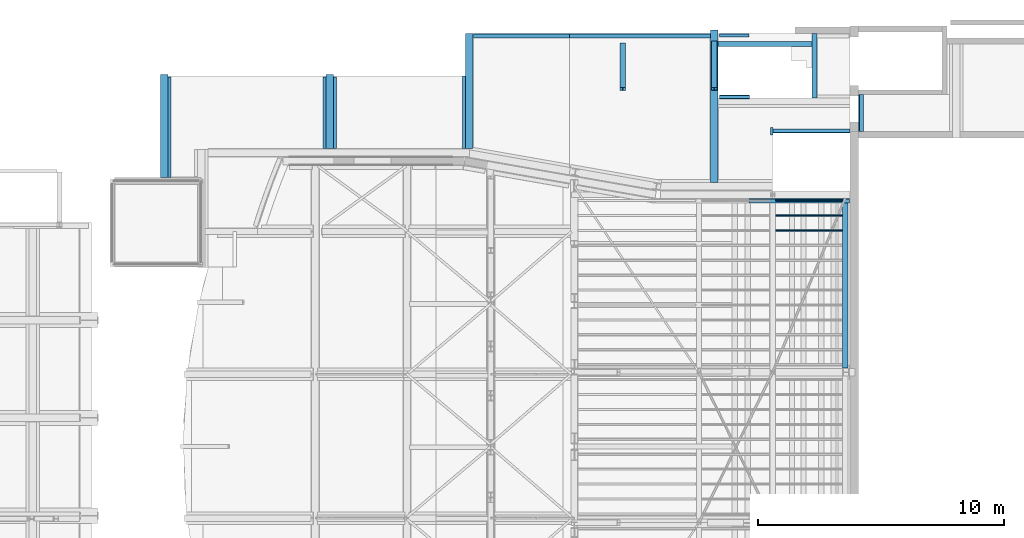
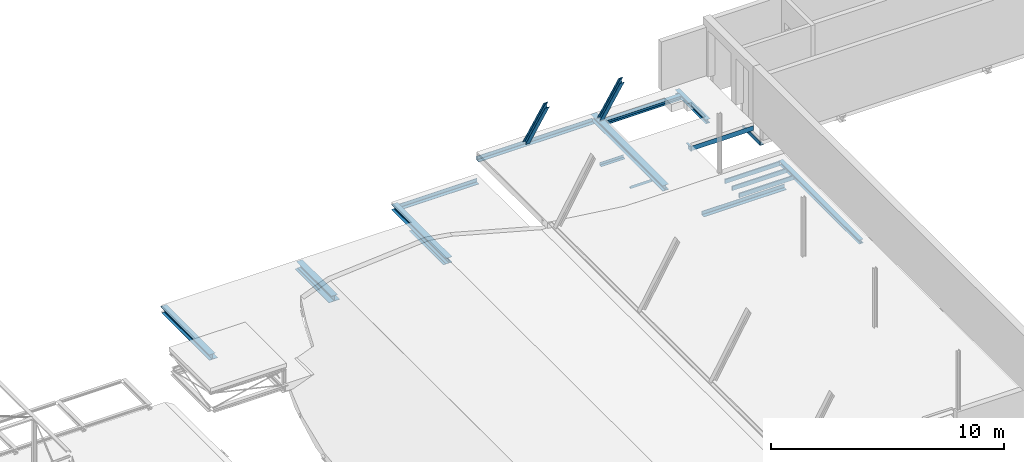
# One storey, part 33 of 50: 19 beams.
"""IFC2X3 building model written with IfcOpenShell, lengths in millimetres."""

from ifc_helpers import new_model, entity, si_unit, converted_unit, derived_unit, direction, frame, frame_2d, origin, place, context, subcontext, project, spatial, polyline, circle_curve, parameter, trimmed, segment, composite_curve, rectangle, i_section, outline, extrude, clip, halfspace, source, transform, mapped, material, material_list, type_object, type_shapes, element, save


model = new_model("IFC2X3")

# Units and contexts
model_context = context("Model", 3, precision=0.01, world=origin(), true_north=direction((6.12303176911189e-17, 1.0)))
body_context = subcontext(model_context, "Body", "Model", "MODEL_VIEW")
ifc_project = project(units=[si_unit("LENGTHUNIT", "METRE", prefix="MILLI"), si_unit("AREAUNIT", "SQUARE_METRE", prefix="MILLI"), si_unit("VOLUMEUNIT", "CUBIC_METRE"), converted_unit("PLANEANGLEUNIT", "DEGREE", entity("IfcRatioMeasure", 0.0174532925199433), si_unit("PLANEANGLEUNIT", "RADIAN"), dimensions=[0, 0, 0, 0, 0, 0, 0]), si_unit("MASSUNIT", "GRAM", prefix="KILO"), derived_unit("MASSDENSITYUNIT", [(si_unit("MASSUNIT", "GRAM", prefix="KILO"), 1), (si_unit("LENGTHUNIT", "METRE"), -3)]), derived_unit("MOMENTOFINERTIAUNIT", [(si_unit("LENGTHUNIT", "METRE"), 4)]), si_unit("TIMEUNIT", "SECOND"), si_unit("FREQUENCYUNIT", "HERTZ"), si_unit("THERMODYNAMICTEMPERATUREUNIT", "DEGREE_CELSIUS"), derived_unit("THERMALTRANSMITTANCEUNIT", [(si_unit("MASSUNIT", "GRAM", prefix="KILO"), 1), (si_unit("THERMODYNAMICTEMPERATUREUNIT", "KELVIN"), -1), (si_unit("TIMEUNIT", "SECOND"), -3)]), derived_unit("VOLUMETRICFLOWRATEUNIT", [(si_unit("LENGTHUNIT", "METRE"), 3), (si_unit("TIMEUNIT", "SECOND"), -1)]), si_unit("ELECTRICCURRENTUNIT", "AMPERE"), si_unit("ELECTRICVOLTAGEUNIT", "VOLT"), si_unit("POWERUNIT", "WATT"), si_unit("FORCEUNIT", "NEWTON", prefix="KILO"), si_unit("ILLUMINANCEUNIT", "LUX"), si_unit("LUMINOUSFLUXUNIT", "LUMEN"), si_unit("LUMINOUSINTENSITYUNIT", "CANDELA"), derived_unit("USERDEFINED", [(si_unit("MASSUNIT", "GRAM", prefix="KILO"), -1), (si_unit("LENGTHUNIT", "METRE"), -2), (si_unit("TIMEUNIT", "SECOND"), 3), (si_unit("LUMINOUSFLUXUNIT", "LUMEN"), 1)]), derived_unit("LINEARVELOCITYUNIT", [(si_unit("LENGTHUNIT", "METRE"), 1), (si_unit("TIMEUNIT", "SECOND"), -1)]), si_unit("PRESSUREUNIT", "PASCAL"), derived_unit("USERDEFINED", [(si_unit("LENGTHUNIT", "METRE"), -2), (si_unit("MASSUNIT", "GRAM", prefix="KILO"), 1), (si_unit("TIMEUNIT", "SECOND"), -2)]), derived_unit("LINEARFORCEUNIT", [(si_unit("MASSUNIT", "GRAM", prefix="KILO"), 1), (si_unit("LENGTHUNIT", "METRE"), 1), (si_unit("TIMEUNIT", "SECOND"), -2), (si_unit("LENGTHUNIT", "METRE"), -1)]), derived_unit("PLANARFORCEUNIT", [(si_unit("MASSUNIT", "GRAM", prefix="KILO"), 1), (si_unit("LENGTHUNIT", "METRE"), 1), (si_unit("TIMEUNIT", "SECOND"), -2), (si_unit("LENGTHUNIT", "METRE"), -2)])], contexts=[model_context])

# Site, building, storey
site_placement = place(None, origin())
site = spatial("IfcSite", under=ifc_project, at=site_placement, Name="Theater aan de Parade", CompositionType="ELEMENT")
building_placement = place(site_placement, origin())
building = spatial("IfcBuilding", under=site, at=building_placement, Name="Theater aan de Parade", CompositionType="ELEMENT")
storey_placement = place(building_placement, frame((0.0, 0.0, 15820.0)))
storey = spatial("IfcBuildingStorey", under=building, at=storey_placement, Name="04 vierde verdieping", CompositionType="ELEMENT", Elevation=15820.0)

# Beams
ifc_material_1 = material(Name="00_PBT_MAT_staal_S355")
beam_type_1 = type_object("IfcBeamType", Name="28_PBT_SF_staal_H-profiel:S355_HE220A", PredefinedType="NOTDEFINED")
beam_1_placement = place(storey_placement, frame((58114.89761, 48882.4167895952, 1586.67878920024), z_axis=(1.0, 0.0, 0.0), x_axis=(0.0, -0.500000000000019, 0.866025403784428)))
element("IfcBeam", 1, at=beam_1_placement, inside=storey, type_object=beam_type_1, material=ifc_material_1, Name="28_PBT_SF_staal_H-profiel:S355_HE220A", ObjectType="28_PBT_SF_staal_H-profiel:S355_HE220A", context=body_context, shape_type="Clipping", body=[
    clip(clip(extrude(i_section(OverallWidth=220.000000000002, OverallDepth=210.000000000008, WebThickness=6.99999999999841, FlangeThickness=10.9999999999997, FilletRadius=17.9999999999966, at=frame_2d((0.0, -3.75166564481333e-12), x_axis=(1.0, 0.0))), frame((21.1555119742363, 105.0, 0.0), z_axis=(1.0, 0.0, 0.0), x_axis=(0.0, 0.0, -1.0)), (0.0, 0.0, 1.0), 3626.91791413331), halfspace(frame((64.3586512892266, 74.8300323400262, 3069.47192916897), z_axis=(-0.866025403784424, 0.500000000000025, 0.0), x_axis=(-0.500000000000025, -0.866025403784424, 0.0)), False)), halfspace(frame((3590.2318706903, 100.184512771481, 156.495608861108), z_axis=(0.86602540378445, 0.49999999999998, 0.0), x_axis=(0.49999999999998, -0.86602540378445, 0.0)), False)),
])
beam_2_placement = place(storey_placement, frame((61833.8822563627, 48969.9167895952, 1435.12434353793), z_axis=(1.0, 0.0, 0.0), x_axis=(0.0, -0.500000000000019, 0.866025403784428)))
element("IfcBeam", 2, at=beam_2_placement, inside=storey, type_object=beam_type_1, material=ifc_material_1, Name="28_PBT_SF_staal_H-profiel:S355_HE220A", ObjectType="28_PBT_SF_staal_H-profiel:S355_HE220A", context=body_context, shape_type="Clipping", body=[
    clip(clip(extrude(i_section(OverallWidth=220.000000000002, OverallDepth=210.000000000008, WebThickness=6.99999999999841, FlangeThickness=10.9999999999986, FilletRadius=17.9999999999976, at=frame_2d((8.66862137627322e-12, -5.91171556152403e-12), x_axis=(1.0, 0.0))), frame((42.5803403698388, 105.0, 0.0), z_axis=(1.0, 0.0, 0.0), x_axis=(0.0, 0.0, -1.0)), (0.0, 0.0, 1.0), 3779.10039597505), halfspace(frame((-182.605345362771, -390.033048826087, -162.0), z_axis=(-0.866025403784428, 0.500000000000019, 0.0), x_axis=(0.500000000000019, 0.866025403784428, 0.0)), False)), halfspace(frame((3763.83918092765, 100.184512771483, -3562.48903750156), z_axis=(0.86602540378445, 0.49999999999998, 0.0), x_axis=(0.49999999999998, -0.86602540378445, 0.0)), False)),
])
beam_3_placement = place(storey_placement, frame((67166.05603639, 42700.0, 0.0), z_axis=(0.0, 0.0, 1.0), x_axis=(0.0, -1.0, 0.0)))
element("IfcBeam", 3, at=beam_3_placement, inside=storey, type_object=beam_type_1, material=ifc_material_1, Name="28_PBT_SF_staal_H-profiel:S355_HE220A", ObjectType="28_PBT_SF_staal_H-profiel:S355_HE220A", context=body_context, shape_type="SweptSolid", body=[
    extrude(outline(composite_curve([segment(polyline([(94.0, -110.0), (105.0, -110.0)]), True, "CONTINUOUS"), segment(polyline([(105.0, -110.0), (105.0, 110.0)]), True, "CONTINUOUS"), segment(polyline([(105.0, 110.0), (94.0, 110.0)]), True, "CONTINUOUS"), segment(polyline([(94.0, 110.0), (94.0, 21.5000000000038)]), True, "CONTINUOUS"), segment(trimmed(circle_curve(frame_2d((76.0, 21.5000000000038), x_axis=(1.0, 0.0)), 17.9999999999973), [parameter(269.999999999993)], [parameter(0.0)], True, "PARAMETER"), False, "CONTINUOUS"), segment(polyline([(76.0, 3.4999999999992), (-76.0, 3.4999999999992)]), True, "CONTINUOUS"), segment(trimmed(circle_curve(frame_2d((-76.0, 21.5000000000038), x_axis=(0.0, -1.0)), 17.9999999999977), [parameter(269.999999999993)], [parameter(0.0)], True, "PARAMETER"), False, "CONTINUOUS"), segment(polyline([(-94.0, 21.4999999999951), (-94.0, 110.0)]), True, "CONTINUOUS"), segment(polyline([(-94.0, 110.0), (-105.0, 110.0)]), True, "CONTINUOUS"), segment(polyline([(-105.0, 110.0), (-105.0, -110.0)]), True, "CONTINUOUS"), segment(polyline([(-105.0, -110.0), (-94.0, -110.0)]), True, "CONTINUOUS"), segment(polyline([(-94.0, -110.0), (-94.0, -21.4999999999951)]), True, "CONTINUOUS"), segment(trimmed(circle_curve(frame_2d((-76.0, -21.4999999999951), x_axis=(-1.0, 0.0)), 17.9999999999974), [parameter(269.999999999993)], [parameter(0.0)], True, "PARAMETER"), False, "CONTINUOUS"), segment(polyline([(-76.0, -3.4999999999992), (76.0, -3.4999999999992)]), True, "CONTINUOUS"), segment(trimmed(circle_curve(frame_2d((76.0, -21.4999999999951), x_axis=(0.0, 1.0)), 17.9999999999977), [parameter(269.999999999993)], [parameter(0.0)], True, "PARAMETER"), False, "CONTINUOUS"), segment(polyline([(94.0, -21.5000000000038), (94.0, -110.0)]), True, "CONTINUOUS")], self_intersect=False)), frame((162.700000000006, 0.0, 1195.0), z_axis=(1.0, 0.0, 0.0), x_axis=(0.0, 0.0, -1.0)), (0.0, 0.0, 1.0), 6902.10000441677),
])
beam_type_2 = type_object("IfcBeamType", Name="28_PBT_SF_staal_L-profiel:S355_L150x150x15", PredefinedType="NOTDEFINED")
beam_4_placement = place(storey_placement, frame((62048.87960151, 46634.3631171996, 0.0)))
element("IfcBeam", 4, at=beam_4_placement, inside=storey, type_object=beam_type_2, material=ifc_material_1, Name="28_PBT_SF_staal_L-profiel:S355_L150x150x15", ObjectType="28_PBT_SF_staal_L-profiel:S355_L150x150x15", context=body_context, shape_type="SweptSolid", body=[
    extrude(outline(composite_curve([segment(polyline([(-93.3333333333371, -56.6666666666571), (56.6666666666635, -56.6666666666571)]), True, "CONTINUOUS"), segment(polyline([(56.6666666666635, -56.6666666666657), (56.6666666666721, 93.3333333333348)]), True, "CONTINUOUS"), segment(polyline([(56.6666666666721, 93.3333333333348), (49.6666666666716, 93.3333333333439)]), True, "CONTINUOUS"), segment(trimmed(circle_curve(frame_2d((49.6666666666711, 85.3333333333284), x_axis=(0.0, 1.0)), 7.99999999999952), [parameter(0.0)], [parameter(90.0000000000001)], True, "PARAMETER"), True, "CONTINUOUS"), segment(polyline([(41.6666666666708, 85.3333333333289), (41.6666666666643, -25.6666666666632)]), True, "CONTINUOUS"), segment(trimmed(circle_curve(frame_2d((25.666666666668, -25.666666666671), x_axis=(1.0, 0.0)), 15.999999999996), [parameter(269.999999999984)], [parameter(0.0)], True, "PARAMETER"), False, "CONTINUOUS"), segment(polyline([(25.6666666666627, -41.6666666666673), (-85.333333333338, -41.6666666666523)]), True, "CONTINUOUS"), segment(trimmed(circle_curve(frame_2d((-85.3333333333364, -49.6666666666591), x_axis=(0.0, 1.0)), 7.9999999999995), [parameter(0.0)], [parameter(90.0000000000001)], True, "PARAMETER"), True, "CONTINUOUS"), segment(polyline([(-93.3333333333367, -49.6666666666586), (-93.3333333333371, -56.6666666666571)]), True, "CONTINUOUS")], self_intersect=False)), frame((0.0, 14.1666666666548, -834.333333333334), z_axis=(1.0, 0.0, 0.0), x_axis=(0.0, 0.0, -1.0)), (0.0, 0.0, 1.0), 1214.99230041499),
])
beam_5_placement = place(storey_placement, frame((62048.87960151, 49219.4979908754, 0.0)))
element("IfcBeam", 5, at=beam_5_placement, inside=storey, type_object=beam_type_2, material=ifc_material_1, Name="28_PBT_SF_staal_L-profiel:S355_L150x150x15", ObjectType="28_PBT_SF_staal_L-profiel:S355_L150x150x15", context=body_context, shape_type="SweptSolid", body=[
    extrude(outline(composite_curve([segment(polyline([(49.6666666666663, -93.3333333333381), (56.666666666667, -93.3333333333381)]), True, "CONTINUOUS"), segment(polyline([(56.666666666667, -93.3333333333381), (56.666666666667, 56.6666666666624)]), True, "CONTINUOUS"), segment(polyline([(56.666666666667, 56.6666666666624), (-93.3333333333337, 56.6666666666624)]), True, "CONTINUOUS"), segment(polyline([(-93.3333333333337, 56.6666666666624), (-93.3333333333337, 49.666666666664)]), True, "CONTINUOUS"), segment(trimmed(circle_curve(frame_2d((-85.3333333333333, 49.666666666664), x_axis=(-1.0, 0.0)), 7.9999999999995), [parameter(0.0)], [parameter(90.0000000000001)], True, "PARAMETER"), True, "CONTINUOUS"), segment(polyline([(-85.3333333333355, 41.6666666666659), (25.6666666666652, 41.6666666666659)]), True, "CONTINUOUS"), segment(trimmed(circle_curve(frame_2d((25.6666666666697, 25.6666666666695), x_axis=(0.0, 1.0)), 15.999999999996), [parameter(269.999999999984)], [parameter(0.0)], True, "PARAMETER"), False, "CONTINUOUS"), segment(polyline([(41.6666666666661, 25.6666666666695), (41.6666666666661, -85.3333333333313)]), True, "CONTINUOUS"), segment(trimmed(circle_curve(frame_2d((49.6666666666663, -85.3333333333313), x_axis=(-1.0, 0.0)), 7.99999999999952), [parameter(0.0)], [parameter(90.0000000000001)], True, "PARAMETER"), True, "CONTINUOUS")], self_intersect=False)), frame((0.0, -14.1666666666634, -1211.33333333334), z_axis=(1.0, 0.0, 0.0), x_axis=(0.0, 0.0, -1.0)), (0.0, 0.0, 1.0), 1192.70525036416),
])
beam_type_3 = type_object("IfcBeamType", Name="28_PBT_SF_staal_H-profiel (void):S355_HE300A", PredefinedType="NOTDEFINED")
beam_6_placement = place(storey_placement, frame((61833.8822563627, 49386.9979908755, 0.0), z_axis=(0.0, 0.0, 1.0), x_axis=(0.0, -1.0, 0.0)))
element("IfcBeam", 6, at=beam_6_placement, inside=storey, type_object=beam_type_3, material=ifc_material_1, Name="28_PBT_SF_staal_H-profiel (void):S355_HE300A", ObjectType="28_PBT_SF_staal_H-profiel (void):S355_HE300A", context=body_context, shape_type="SweptSolid", body=[
    extrude(i_section(OverallWidth=300.000000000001, OverallDepth=289.999999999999, WebThickness=8.49999999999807, FlangeThickness=13.999999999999, FilletRadius=27.0000000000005, at=frame_2d((0.0, 0.0), x_axis=(0.0, 1.0))), frame((0.0, 0.0, 1315.0), z_axis=(1.0, 0.0, 0.0), x_axis=(0.0, 0.0, -1.0)), (0.0, 0.0, 1.0), 6201.99799087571),
])
beam_type_4 = type_object("IfcBeamType", Name="28_PBT_SF_staal_L-profiel:S355_L200x200x20", PredefinedType="NOTDEFINED")
beam_7_placement = place(storey_placement, frame((67763.056100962, 46761.8723406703, 0.0), z_axis=(0.0, 0.0, 1.0), x_axis=(0.0, -1.0, 0.0)))
element("IfcBeam", 7, at=beam_7_placement, inside=storey, type_object=beam_type_4, material=ifc_material_1, Name="28_PBT_SF_staal_L-profiel:S355_L200x200x20", ObjectType="28_PBT_SF_staal_L-profiel:S355_L200x200x20", context=body_context, shape_type="SweptSolid", body=[
    extrude(outline(composite_curve([segment(polyline([(-124.444444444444, -75.5555555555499), (75.5555555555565, -75.5555555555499)]), True, "CONTINUOUS"), segment(polyline([(75.5555555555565, -75.5555555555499), (75.5555555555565, 124.444444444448)]), True, "CONTINUOUS"), segment(polyline([(75.5555555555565, 124.444444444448), (64.5555555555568, 124.444444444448)]), True, "CONTINUOUS"), segment(trimmed(circle_curve(frame_2d((64.5555555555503, 115.44444444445), x_axis=(0.0, 1.0)), 8.99999999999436), [parameter(0.0)], [parameter(90.0000000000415)], True, "PARAMETER"), True, "CONTINUOUS"), segment(polyline([(55.5555555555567, 115.44444444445), (55.5555555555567, -37.5555555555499)]), True, "CONTINUOUS"), segment(trimmed(circle_curve(frame_2d((37.5555555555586, -37.5555555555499), x_axis=(1.0, 0.0)), 17.9999999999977), [parameter(269.999999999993)], [parameter(0.0)], True, "PARAMETER"), False, "CONTINUOUS"), segment(polyline([(37.5555555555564, -55.5555555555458), (-115.444444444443, -55.5555555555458)]), True, "CONTINUOUS"), segment(trimmed(circle_curve(frame_2d((-115.44444444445, -64.5555555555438), x_axis=(0.0, 1.0)), 8.99999999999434), [parameter(0.0)], [parameter(90.0000000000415)], True, "PARAMETER"), True, "CONTINUOUS"), segment(polyline([(-124.444444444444, -64.5555555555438), (-124.444444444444, -75.5555555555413)]), True, "CONTINUOUS")], self_intersect=False)), frame((0.0, 18.7555555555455, 275.555555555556), z_axis=(1.0, 0.0, 0.0), x_axis=(0.0, 0.0, -1.0)), (0.0, 0.0, 1.0), 1501.8723406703),
])
beam_8_placement = place(storey_placement, frame((63586.4226468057, 42493.1999999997, 0.0)))
element("IfcBeam", 8, at=beam_8_placement, inside=storey, type_object=beam_type_4, material=ifc_material_1, Name="28_PBT_SF_staal_L-profiel:S355_L200x200x20", ObjectType="28_PBT_SF_staal_L-profiel:S355_L200x200x20", context=body_context, shape_type="SweptSolid", body=[
    extrude(outline(composite_curve([segment(polyline([(64.5555555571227, -124.444444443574), (75.5555555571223, -124.444444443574)]), True, "CONTINUOUS"), segment(polyline([(75.5555555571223, -124.444444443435), (75.5555555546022, 75.555555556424)]), True, "CONTINUOUS"), segment(polyline([(75.5555555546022, 75.5555555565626), (-124.444444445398, 75.5555555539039)]), True, "CONTINUOUS"), segment(polyline([(-124.444444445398, 75.5555555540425), (-124.444444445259, 64.5555555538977)]), True, "CONTINUOUS"), segment(trimmed(circle_curve(frame_2d((-115.444444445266, 64.5555555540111), x_axis=(-1.0, 0.0)), 8.99999999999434), [parameter(0.0)], [parameter(90.0000000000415)], True, "PARAMETER"), True, "CONTINUOUS"), segment(polyline([(-115.444444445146, 55.5555555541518), (37.5555555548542, 55.5555555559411)]), True, "CONTINUOUS"), segment(trimmed(circle_curve(frame_2d((37.5555555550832, 37.5555555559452), x_axis=(0.0, 1.0)), 17.9999999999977), [parameter(269.999999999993)], [parameter(0.0)], True, "PARAMETER"), False, "CONTINUOUS"), segment(polyline([(55.5555555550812, 37.5555555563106), (55.5555555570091, -115.444444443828)]), True, "CONTINUOUS"), segment(trimmed(circle_curve(frame_2d((64.5555555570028, -115.444444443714), x_axis=(-1.0, 0.0)), 8.99999999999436), [parameter(0.0)], [parameter(90.0000000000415)], True, "PARAMETER"), True, "CONTINUOUS")], self_intersect=False)), frame((-343.047898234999, -18.7555555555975, -144.444444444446), z_axis=(1.0, 0.0, 0.0), x_axis=(0.0, 0.0, -1.0)), (0.0, 0.0, 1.0), 4100.1813523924),
])
beam_9_placement = place(storey_placement, frame((52047.1246765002, 49205.1979908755, 0.0)))
element("IfcBeam", 9, at=beam_9_placement, inside=storey, type_object=beam_type_4, material=ifc_material_1, Name="28_PBT_SF_staal_L-profiel:S355_L200x200x20", ObjectType="28_PBT_SF_staal_L-profiel:S355_L200x200x20", context=body_context, shape_type="SweptSolid", body=[
    extrude(outline(composite_curve([segment(polyline([(64.5555555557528, -124.444444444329), (75.5555555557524, -124.444444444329)]), True, "CONTINUOUS"), segment(polyline([(75.5555555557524, -124.444444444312), (75.5555555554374, 75.5555555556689)]), True, "CONTINUOUS"), segment(polyline([(75.5555555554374, 75.5555555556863), (-124.444444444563, 75.5555555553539)]), True, "CONTINUOUS"), segment(polyline([(-124.444444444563, 75.5555555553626), (-124.444444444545, 64.5555555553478)]), True, "CONTINUOUS"), segment(trimmed(circle_curve(frame_2d((-115.444444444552, 64.5555555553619), x_axis=(-1.0, 0.0)), 8.99999999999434), [parameter(0.0)], [parameter(90.0000000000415)], True, "PARAMETER"), True, "CONTINUOUS"), segment(polyline([(-115.444444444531, 55.5555555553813), (37.5555555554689, 55.555555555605)]), True, "CONTINUOUS"), segment(trimmed(circle_curve(frame_2d((37.5555555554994, 37.5555555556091), x_axis=(0.0, 1.0)), 17.9999999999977), [parameter(269.999999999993)], [parameter(0.0)], True, "PARAMETER"), False, "CONTINUOUS"), segment(polyline([(55.5555555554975, 37.5555555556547), (55.5555555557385, -115.444444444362)]), True, "CONTINUOUS"), segment(trimmed(circle_curve(frame_2d((64.5555555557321, -115.444444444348), x_axis=(-1.0, 0.0)), 8.99999999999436), [parameter(0.0)], [parameter(90.0000000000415)], True, "PARAMETER"), True, "CONTINUOUS")], self_intersect=False)), frame((0.0, -18.7555555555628, 65.5555555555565), z_axis=(1.0, 0.0, 0.0), x_axis=(0.0, 0.0, -1.0)), (0.0, 0.0, 1.0), 3910.55755739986),
])
beam_10_placement = place(storey_placement, frame((55957.6822339, 49205.1979908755, 0.0)))
element("IfcBeam", 10, at=beam_10_placement, inside=storey, type_object=beam_type_4, material=ifc_material_1, Name="28_PBT_SF_staal_L-profiel:S355_L200x200x20", ObjectType="28_PBT_SF_staal_L-profiel:S355_L200x200x20", context=body_context, shape_type="SweptSolid", body=[
    extrude(outline(composite_curve([segment(polyline([(64.5555555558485, -124.444444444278), (75.5555555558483, -124.444444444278)]), True, "CONTINUOUS"), segment(polyline([(75.5555555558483, -124.444444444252), (75.5555555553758, 75.5555555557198)]), True, "CONTINUOUS"), segment(polyline([(75.5555555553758, 75.5555555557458), (-124.444444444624, 75.5555555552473)]), True, "CONTINUOUS"), segment(polyline([(-124.444444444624, 75.5555555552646), (-124.444444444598, 64.5555555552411)]), True, "CONTINUOUS"), segment(trimmed(circle_curve(frame_2d((-115.444444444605, 64.5555555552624), x_axis=(-1.0, 0.0)), 8.99999999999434), [parameter(0.0)], [parameter(90.0000000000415)], True, "PARAMETER"), True, "CONTINUOUS"), segment(polyline([(-115.444444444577, 55.5555555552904), (37.555555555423, 55.5555555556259)]), True, "CONTINUOUS"), segment(trimmed(circle_curve(frame_2d((37.5555555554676, 37.55555555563), x_axis=(0.0, 1.0)), 17.9999999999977), [parameter(269.999999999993)], [parameter(0.0)], True, "PARAMETER"), False, "CONTINUOUS"), segment(polyline([(55.5555555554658, 37.5555555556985), (55.5555555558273, -115.444444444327)]), True, "CONTINUOUS"), segment(trimmed(circle_curve(frame_2d((64.5555555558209, -115.444444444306), x_axis=(-1.0, 0.0)), 8.99999999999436), [parameter(0.0)], [parameter(90.0000000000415)], True, "PARAMETER"), True, "CONTINUOUS")], self_intersect=False)), frame((0.0, -18.7555555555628, 1220.55555555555), z_axis=(1.0, 0.0, 0.0), x_axis=(0.0, 0.0, -1.0)), (0.0, 0.0, 1.0), 5726.20002246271),
])
beam_type_5 = type_object("IfcBeamType", Name="28_PBT_SF_staal_H-profiel (void):S355_HE220A", PredefinedType="NOTDEFINED")
beam_11_placement = place(storey_placement, frame((65913.8822523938, 49261.9979908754, 0.0), z_axis=(0.0, 0.0, 1.0), x_axis=(0.0, -1.0, 0.0)))
element("IfcBeam", 11, at=beam_11_placement, inside=storey, type_object=beam_type_5, material=ifc_material_1, Name="28_PBT_SF_staal_H-profiel (void):S355_HE220A", ObjectType="28_PBT_SF_staal_H-profiel (void):S355_HE220A", context=body_context, shape_type="SweptSolid", body=[
    extrude(outline(composite_curve([segment(polyline([(94.0, -110.0), (105.0, -110.0)]), True, "CONTINUOUS"), segment(polyline([(105.0, -110.0), (105.0, 110.0)]), True, "CONTINUOUS"), segment(polyline([(105.0, 110.0), (94.0, 110.0)]), True, "CONTINUOUS"), segment(polyline([(94.0, 110.0), (94.0, 21.5000000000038)]), True, "CONTINUOUS"), segment(trimmed(circle_curve(frame_2d((76.0, 21.5000000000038), x_axis=(1.0, 0.0)), 17.9999999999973), [parameter(269.999999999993)], [parameter(0.0)], True, "PARAMETER"), False, "CONTINUOUS"), segment(polyline([(76.0, 3.4999999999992), (-76.0, 3.4999999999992)]), True, "CONTINUOUS"), segment(trimmed(circle_curve(frame_2d((-76.0, 21.5000000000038), x_axis=(0.0, -1.0)), 17.9999999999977), [parameter(269.999999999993)], [parameter(0.0)], True, "PARAMETER"), False, "CONTINUOUS"), segment(polyline([(-94.0, 21.5000000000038), (-94.0, 110.0)]), True, "CONTINUOUS"), segment(polyline([(-94.0, 110.0), (-105.0, 110.0)]), True, "CONTINUOUS"), segment(polyline([(-105.0, 110.0), (-105.0, -110.0)]), True, "CONTINUOUS"), segment(polyline([(-105.0, -110.0), (-94.0, -110.0)]), True, "CONTINUOUS"), segment(polyline([(-94.0, -110.0), (-94.0, -21.4999999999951)]), True, "CONTINUOUS"), segment(trimmed(circle_curve(frame_2d((-76.0, -21.4999999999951), x_axis=(-1.0, 0.0)), 17.9999999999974), [parameter(269.999999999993)], [parameter(0.0)], True, "PARAMETER"), False, "CONTINUOUS"), segment(polyline([(-76.0, -3.4999999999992), (76.0, -3.4999999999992)]), True, "CONTINUOUS"), segment(trimmed(circle_curve(frame_2d((76.0, -21.4999999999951), x_axis=(0.0, 1.0)), 17.9999999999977), [parameter(269.999999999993)], [parameter(0.0)], True, "PARAMETER"), False, "CONTINUOUS"), segment(polyline([(94.0, -21.5000000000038), (94.0, -110.0)]), True, "CONTINUOUS")], self_intersect=False)), frame((0.0, 0.0, 1275.0), z_axis=(1.0, 0.0, 0.0), x_axis=(0.0, 0.0, -1.0)), (0.0, 0.0, 1.0), 2635.13487367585),
])
beam_12_placement = place(storey_placement, frame((61983.8822563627, 48826.8631171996, 0.0)))
element("IfcBeam", 12, at=beam_12_placement, inside=storey, type_object=beam_type_5, material=ifc_material_1, Name="28_PBT_SF_staal_H-profiel (void):S355_HE220A", ObjectType="28_PBT_SF_staal_H-profiel (void):S355_HE220A", context=body_context, shape_type="SweptSolid", body=[
    extrude(i_section(OverallWidth=220.000000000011, OverallDepth=210.0, WebThickness=6.9999999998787, FlangeThickness=10.9999999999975, FilletRadius=17.9999999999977, at=frame_2d((-2.16715534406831e-12, 8.66151594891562e-12), x_axis=(0.0, 1.0))), frame((0.0, 0.0, 1275.0), z_axis=(1.0, 0.0, 0.0), x_axis=(0.0, 0.0, -1.0)), (0.0, 0.0, 1.0), 3819.99999603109),
])
ifc_material_2 = material(Name="00_PBT_MAT_Lucht")
ifc_material_list_1 = material_list([ifc_material_2, ifc_material_1])
beam_type_6 = type_object("IfcBeamType", Name="28_PBT_SF_staal_H-profiel_met_ondergelaste_strip (void):S355_HE300A + ondergelaste strip d=12", PredefinedType="BEAM", material=ifc_material_list_1)
shared_shape_1 = source(origin(), body_context, "Body", "SweptSolid", [
    extrude(i_section(OverallWidth=300.000000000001, OverallDepth=289.999999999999, WebThickness=8.49999999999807, FlangeThickness=14.0000000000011, FilletRadius=27.0000000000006, at=frame_2d((-8.65441052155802e-12, -2.1600499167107e-12), x_axis=(1.0, 0.0))), frame((51877.1246765, 44565.0, 15975.0), z_axis=(0.0, 1.0, 0.0), x_axis=(-1.0, 0.0, 0.0)), (0.0, 0.0, 1.0), 4696.99799087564),
    extrude(rectangle(XDim=9.99999999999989, YDim=420.0, at=frame_2d((4.33431068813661e-12, 2.16582307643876e-12), x_axis=(0.0, 1.0))), frame((51812.1246765, 44566.0, 15825.0), z_axis=(0.0, 1.0, 0.0), x_axis=(-1.0, 0.0, 0.0)), (0.0, 0.0, 1.0), 2955.99799087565),
])
type_shapes(beam_type_6, [shared_shape_1])
beam_13_placement = place(storey_placement, frame((0.0, 0.0, -15820.0)))
element("IfcBeam", 13, at=beam_13_placement, inside=storey, type_object=beam_type_6, material=ifc_material_1, Name="28_PBT_SF_staal_H-profiel_met_ondergelaste_strip (void):S355_HE300A + ondergelaste strip d=12", ObjectType="28_PBT_SF_staal_H-profiel_met_ondergelaste_strip (void):S355_HE300A + ondergelaste strip d=12", context=body_context, shape_type="MappedRepresentation", body=[
    mapped(shared_shape_1, transform((0.0, 0.0, 0.0), scale=1.0)),
])
ifc_material_list_2 = material_list([ifc_material_1, ifc_material_2])
beam_type_7 = type_object("IfcBeamType", Name="28_PBT_SF_staal_H-profiel_met_onderplaat (void):S355_HE300A + onderplaat d=12", PredefinedType="BEAM", material=ifc_material_list_2)
shared_shape_2 = source(origin(), body_context, "Body", "Clipping", [
    clip(extrude(i_section(OverallWidth=300.000000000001, OverallDepth=289.999999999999, WebThickness=8.49999999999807, FlangeThickness=14.0000000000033, FilletRadius=27.0000000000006, at=frame_2d((0.0, -2.1600499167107e-12), x_axis=(1.0, 0.0))), frame((46197.668810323, 44565.0, 15975.0), z_axis=(0.0, 1.0, 0.0), x_axis=(-1.0, 0.0, 0.0)), (0.0, 0.0, 1.0), 3026.29560231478), halfspace(frame((50297.668810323, 47655.7290130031, 16309.3471134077), z_axis=(0.0, 0.946688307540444, -0.322150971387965), x_axis=(-1.0, 0.0, 0.0)), False)),
    clip(extrude(rectangle(XDim=11.9999999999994, YDim=550.000000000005, at=frame_2d((-4.34852154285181e-12, 1.0831335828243e-12), x_axis=(0.0, 1.0))), frame((46197.668810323, 44565.0, 15824.0), z_axis=(0.0, 1.0, 0.0), x_axis=(-1.0, 0.0, 0.0)), (0.0, 0.0, 1.0), 2927.61076491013), halfspace(frame((50297.668810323, 47655.7290130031, 16309.3471134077), z_axis=(0.0, 0.946688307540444, -0.322150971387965), x_axis=(-1.0, 0.0, 0.0)), False)),
])
type_shapes(beam_type_7, [shared_shape_2])
beam_14_placement = place(storey_placement, frame((0.0, 0.0, -15820.0)))
element("IfcBeam", 14, at=beam_14_placement, inside=storey, type_object=beam_type_7, material=ifc_material_1, Name="28_PBT_SF_staal_H-profiel_met_onderplaat (void):S355_HE300A + onderplaat d=12", ObjectType="28_PBT_SF_staal_H-profiel_met_onderplaat (void):S355_HE300A + onderplaat d=12", context=body_context, shape_type="MappedRepresentation", body=[
    mapped(shared_shape_2, transform((0.0, 0.0, 0.0), scale=1.0)),
])
ifc_material_3 = material(Name="00_PBT_MAT_hout")
beam_type_8 = type_object("IfcBeamType", Name="28_PBT_SF_rechthoekig hout:70x220", PredefinedType="NOTDEFINED")
for number, where, z_axis, x_axis, name in (
    (15, (67166.05603639, 41242.0, 0.0), (0.0, 0.0, 1.0), (-1.0, 0.0, 0.0), "28_PBT_SF_rechthoekig hout:70x220"),
    (16, (67166.05603639, 41849.0, 0.0), (0.0, 0.0, 1.0), (-1.0, 0.0, 0.0), "28_PBT_SF_rechthoekig hout:70x220"),
    (17, (67166.05603639, 42456.0, 0.0), (0.0, 0.0, 1.0), (-1.0, 0.0, 0.0), "28_PBT_SF_rechthoekig hout:70x220"),
):
    element("IfcBeam", number, at=place(storey_placement, frame(where, z_axis=z_axis, x_axis=x_axis)), inside=storey, type_object=beam_type_8, material=ifc_material_3, Name=name, ObjectType="28_PBT_SF_rechthoekig hout:70x220", context=body_context, shape_type="SweptSolid", body=[
        extrude(rectangle(XDim=220.0, YDim=70.0000000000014, at=frame_2d((1.08002495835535e-12, 0.0), x_axis=(1.0, 0.0))), frame((122.700000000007, 0.0, 1212.0), z_axis=(1.0, 0.0, 0.0), x_axis=(0.0, 0.0, -1.0)), (0.0, 0.0, 1.0), 2704.6),
    ])
ifc_material_4 = material(Name="00_PBT_MAT_staal")
ifc_material_list_3 = material_list([ifc_material_4, ifc_material_4])
ifc_material_list_4 = material_list([ifc_material_4, ifc_material_4])
beam_type_9 = type_object("IfcBeamType", Name="28_PBT_SF_raveelijzer:L-staal h=320", PredefinedType="BEAM", material=ifc_material_list_4)
shared_shape_3 = source(origin(), body_context, "Body", "SweptSolid", [
    extrude(outline(polyline([(-99.2857142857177, -62.8571428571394), (-99.2857142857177, -77.8571428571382), (50.7142857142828, -77.8571428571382), (50.7142857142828, 172.142857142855), (35.7142857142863, 172.142857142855), (35.7142857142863, -62.8571428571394), (25.7142857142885, -62.8571428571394), (-99.2857142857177, -62.8571428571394)])), frame((64226.05603639, 45265.3974105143, 17052.8571428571), z_axis=(-1.0, 0.0, 0.0), x_axis=(0.0, -1.0, 0.0)), (0.0, 0.0, -1.0), 3130.20006457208),
    extrude(outline(polyline([(-238.214285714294, -22.8571428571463), (-238.214285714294, -32.8571428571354), (99.285714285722, -32.8571428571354), (99.285714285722, -22.8571428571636), (99.285714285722, 67.1428571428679), (89.2857142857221, 67.1428571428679), (89.2857142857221, -22.8571428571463), (-238.214285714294, -22.8571428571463)])), frame((64193.1988935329, 45129.6832248, 17220.7142857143), z_axis=(0.0, -1.0, 0.0), x_axis=(0.0, 0.0, 1.0)), (0.0, 0.0, -1.0), 300.00000000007),
])
type_shapes(beam_type_9, [shared_shape_3])
beam_15_placement = place(storey_placement, frame((0.0, 0.0, -15820.0)))
element("IfcBeam", 18, at=beam_15_placement, inside=storey, type_object=beam_type_9, material=ifc_material_list_3, Name="28_PBT_SF_raveelijzer:L-staal h=320", ObjectType="28_PBT_SF_raveelijzer:L-staal h=320", context=body_context, shape_type="MappedRepresentation", body=[
    mapped(shared_shape_3, transform((0.0, 0.0, 0.0), scale=1.0)),
])
ifc_material_list_5 = material_list([ifc_material_2, ifc_material_1])
beam_type_10 = type_object("IfcBeamType", Name="28_PBT_SF_staal_H-profiel_met_ondergelaste_strip (void):S355_HE300A + ondergelaste strip d=12", PredefinedType="BEAM", material=ifc_material_list_5)
shared_shape_4 = source(origin(), body_context, "Body", "Clipping", [
    clip(extrude(i_section(OverallWidth=300.000000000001, OverallDepth=289.999999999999, WebThickness=8.49999999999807, FlangeThickness=13.999999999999, FilletRadius=27.0000000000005, at=frame_2d((-8.65441052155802e-12, -2.1600499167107e-12), x_axis=(1.0, 0.0))), frame((39462.1672575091, 43400.0, 15975.0), z_axis=(0.0, 1.0, 0.0), x_axis=(-1.0, 0.0, 0.0)), (0.0, 0.0, 1.0), 4191.29560231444), halfspace(frame((44824.6672575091, 47687.0520133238, 16401.3943856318), z_axis=(0.0, 0.946688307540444, -0.322150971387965), x_axis=(-1.0, 0.0, 0.0)), False)),
    clip(extrude(rectangle(XDim=9.99999999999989, YDim=420.0, at=frame_2d((4.33431068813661e-12, 0.0), x_axis=(0.0, 1.0))), frame((39527.1672575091, 43401.0, 15825.0), z_axis=(0.0, 1.0, 0.0), x_axis=(-1.0, 0.0, 0.0)), (0.0, 0.0, 1.0), 4091.61076490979), halfspace(frame((44824.6672575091, 47687.0520133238, 16401.3943856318), z_axis=(0.0, 0.946688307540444, -0.322150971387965), x_axis=(-1.0, 0.0, 0.0)), False)),
])
type_shapes(beam_type_10, [shared_shape_4])
beam_16_placement = place(storey_placement, frame((0.0, 0.0, -15820.0)))
element("IfcBeam", 19, at=beam_16_placement, inside=storey, type_object=beam_type_10, material=ifc_material_1, Name="28_PBT_SF_staal_H-profiel_met_ondergelaste_strip (void):S355_HE300A + ondergelaste strip d=12", ObjectType="28_PBT_SF_staal_H-profiel_met_ondergelaste_strip (void):S355_HE300A + ondergelaste strip d=12", context=body_context, shape_type="MappedRepresentation", body=[
    mapped(shared_shape_4, transform((0.0, 0.0, 0.0), scale=1.0)),
])

save(model, "model.ifc")
